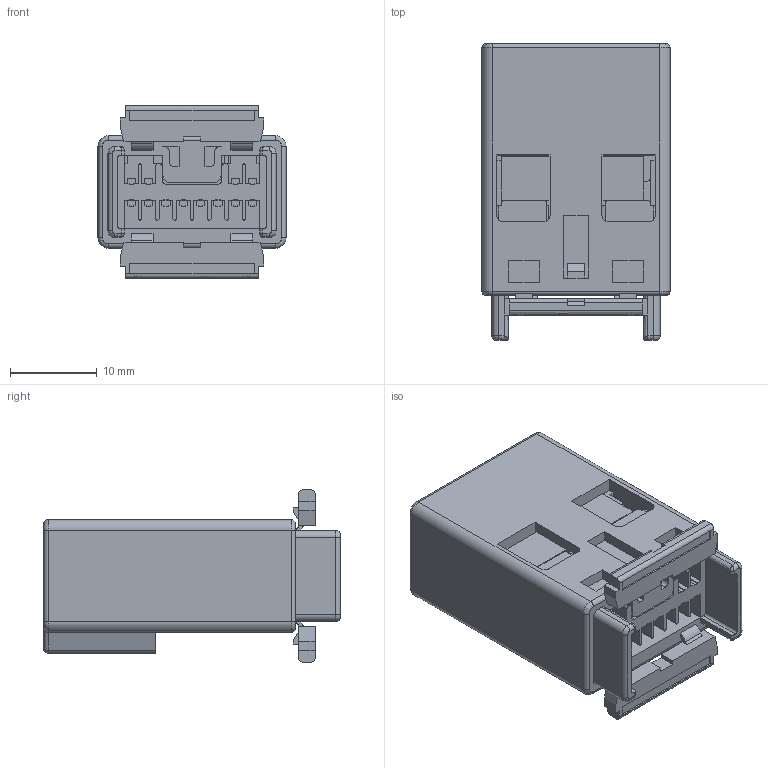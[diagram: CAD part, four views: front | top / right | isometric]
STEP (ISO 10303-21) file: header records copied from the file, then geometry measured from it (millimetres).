
FILE_DESCRIPTION((''),'2;1');
FILE_NAME('CU_MG641394_030_12M_CONNT_ASSY_','2018-12-07T',('Administrator'),(''),'PRO/ENGINEER BY PARAMETRIC TECHNOLOGY CORPORATION, 2017170','PRO/ENGINEER BY PARAMETRIC TECHNOLOGY CORPORATION, 2017170','');
FILE_SCHEMA(('CONFIG_CONTROL_DESIGN','GEOMETRIC_VALIDATION_PROPERTIES_MIM'));
Length unit declared in the file: millimetre
Products named in the file (1): CU_MG641394_030_12M_CONNT_ASSY_
Bounding box: 21.7 x 34.22 x 19.9 mm (x, y, z)
Volume: 5560 mm3; surface area: 6145.2 mm2
Topology: 1 solids, 1 shells, 716 faces, 2095 edges, 1381 vertices
Faces by surface type: bspline 716
Entity records: 27236 total; most frequent: CARTESIAN_POINT 9975, ORIENTED_EDGE 4178, DIRECTION 2301, EDGE_CURVE 2089, VECTOR 1813, LINE 1813, VERTEX_POINT 1381, EDGE_LOOP 748
